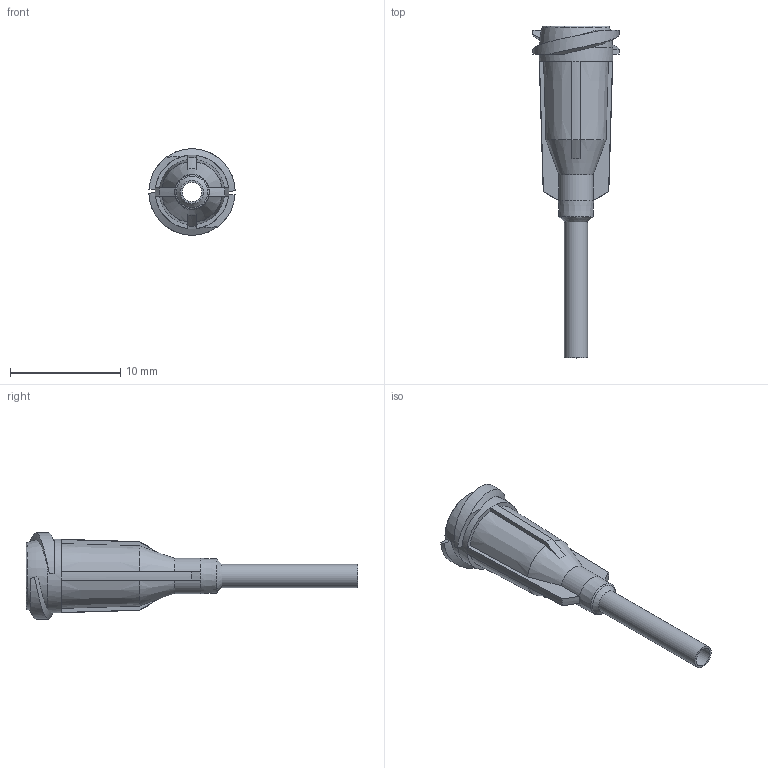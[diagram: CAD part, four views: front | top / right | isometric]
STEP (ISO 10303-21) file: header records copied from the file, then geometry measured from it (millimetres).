
FILE_DESCRIPTION (( 'STEP AP214' ), '1' );
FILE_NAME ('DAV TE 14 05.STEP', '2023-09-28T15:24:03', ( '' ), ( '' ), 'SwSTEP 2.0', 'SolidWorks 2022', '' );
FILE_SCHEMA (( 'AUTOMOTIVE_DESIGN' ));
Length unit declared in the file: millimetre
Products named in the file (1): DAV TE 14 05
Bounding box: 7.82 x 30.07 x 7.82 mm (x, y, z)
Volume: 259.9 mm3; surface area: 705.5 mm2
Topology: 1 solids, 1 shells, 63 faces, 161 edges, 101 vertices
Faces by surface type: plane 23, cone 16, bspline 10, cylinder 7, torus 7
Full cylindrical faces by diameter (mm): 1.77 x1, 2.11 x1, 2.87 x1, 6.655 x1
Entity records: 2066 total; most frequent: CARTESIAN_POINT 796, ORIENTED_EDGE 262, DIRECTION 228, EDGE_CURVE 131, AXIS2_PLACEMENT_3D 99, VERTEX_POINT 89, EDGE_LOOP 80, FACE_OUTER_BOUND 71
